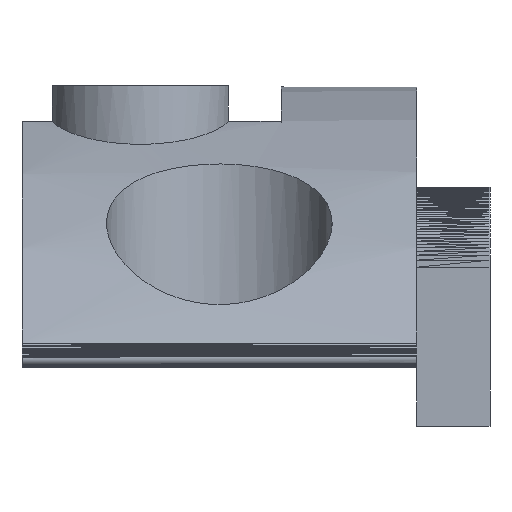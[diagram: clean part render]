
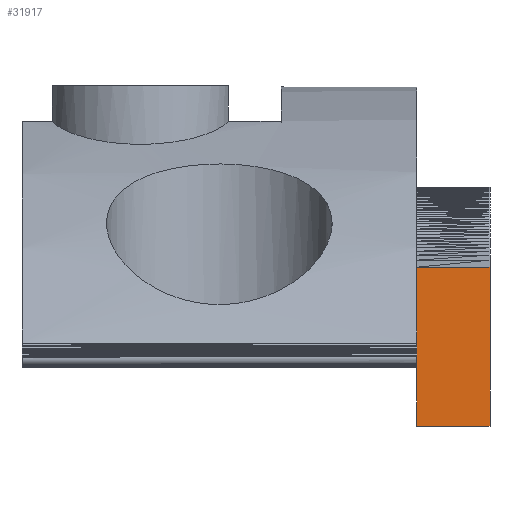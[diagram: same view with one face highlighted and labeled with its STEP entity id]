
A CAD part, left-side view. The second image highlights one B-rep face of the part: STEP entity #31917.
In plain terms, the highlighted planar face has unit normal (-1, 0, 0).
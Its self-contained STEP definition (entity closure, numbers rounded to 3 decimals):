
#3172 = PLANE('',#3173);
#3173 = AXIS2_PLACEMENT_3D('',#3174,#3175,#3176);
#3174 = CARTESIAN_POINT('',(-7.788,5.752,
    1.925));
#3175 = DIRECTION('',(0.,-1.,0.));
#3176 = DIRECTION('',(-0.,0.,1.));
#3265 = PLANE('',#3266);
#3266 = AXIS2_PLACEMENT_3D('',#3267,#3268,#3269);
#3267 = CARTESIAN_POINT('',(-7.618,4.452,2.648
    ));
#3268 = DIRECTION('',(0.,1.,0.));
#3269 = DIRECTION('',(0.,0.,-1.));
#14604 = VERTEX_POINT('',#14605);
#14605 = CARTESIAN_POINT('',(-11.363,4.452,
    -1.038));
#14612 = PLANE('',#14613);
#14613 = AXIS2_PLACEMENT_3D('',#14614,#14615,#14616);
#14614 = CARTESIAN_POINT('',(-7.618,5.102,
    -1.038));
#14615 = DIRECTION('',(0.,0.,1.));
#14616 = DIRECTION('',(0.,1.,0.));
#14631 = EDGE_CURVE('',#14604,#14632,#14634,.T.);
#14632 = VERTEX_POINT('',#14633);
#14633 = CARTESIAN_POINT('',(-11.363,5.752,
    -1.038));
#14634 = SURFACE_CURVE('',#14635,(#14639,#14646),.PCURVE_S1.);
#14635 = LINE('',#14636,#14637);
#14636 = CARTESIAN_POINT('',(-11.363,5.167,
    -1.038));
#14637 = VECTOR('',#14638,1.);
#14638 = DIRECTION('',(-0.,1.,-0.));
#14639 = PCURVE('',#14612,#14640);
#14640 = DEFINITIONAL_REPRESENTATION('',(#14641),#14645);
#14641 = LINE('',#14642,#14643);
#14642 = CARTESIAN_POINT('',(0.065,3.744));
#14643 = VECTOR('',#14644,1.);
#14644 = DIRECTION('',(1.,0.));
#14645 = ( GEOMETRIC_REPRESENTATION_CONTEXT(2) 
PARAMETRIC_REPRESENTATION_CONTEXT() REPRESENTATION_CONTEXT('2D SPACE',''
  ) );
#14646 = PCURVE('',#14647,#14652);
#14647 = PLANE('',#14648);
#14648 = AXIS2_PLACEMENT_3D('',#14649,#14650,#14651);
#14649 = CARTESIAN_POINT('',(-11.363,5.232,
    0.298));
#14650 = DIRECTION('',(-1.,-0.,-0.));
#14651 = DIRECTION('',(0.,0.,-1.));
#14652 = DEFINITIONAL_REPRESENTATION('',(#14653),#14657);
#14653 = LINE('',#14654,#14655);
#14654 = CARTESIAN_POINT('',(1.335,0.065));
#14655 = VECTOR('',#14656,1.);
#14656 = DIRECTION('',(0.,-1.));
#14657 = ( GEOMETRIC_REPRESENTATION_CONTEXT(2) 
PARAMETRIC_REPRESENTATION_CONTEXT() REPRESENTATION_CONTEXT('2D SPACE',''
  ) );
#14746 = VERTEX_POINT('',#14747);
#14747 = CARTESIAN_POINT('',(-11.363,5.752,
    0.));
#15021 = PLANE('',#15022);
#15022 = AXIS2_PLACEMENT_3D('',#15023,#15024,#15025);
#15023 = CARTESIAN_POINT('',(-7.618,5.752,
    0.));
#15024 = DIRECTION('',(0.,1.,0.));
#15025 = DIRECTION('',(0.,0.,1.));
#27094 = EDGE_CURVE('',#14746,#27095,#27097,.T.);
#27095 = VERTEX_POINT('',#27096);
#27096 = CARTESIAN_POINT('',(-11.363,5.752,
    1.782));
#27097 = SURFACE_CURVE('',#27098,(#27102,#27109),.PCURVE_S1.);
#27098 = LINE('',#27099,#27100);
#27099 = CARTESIAN_POINT('',(-11.363,5.752,
    1.111));
#27100 = VECTOR('',#27101,1.);
#27101 = DIRECTION('',(-0.,-0.,1.));
#27102 = PCURVE('',#3172,#27103);
#27103 = DEFINITIONAL_REPRESENTATION('',(#27104),#27108);
#27104 = LINE('',#27105,#27106);
#27105 = CARTESIAN_POINT('',(-0.814,3.574));
#27106 = VECTOR('',#27107,1.);
#27107 = DIRECTION('',(1.,0.));
#27108 = ( GEOMETRIC_REPRESENTATION_CONTEXT(2) 
PARAMETRIC_REPRESENTATION_CONTEXT() REPRESENTATION_CONTEXT('2D SPACE',''
  ) );
#27109 = PCURVE('',#14647,#27110);
#27110 = DEFINITIONAL_REPRESENTATION('',(#27111),#27115);
#27111 = LINE('',#27112,#27113);
#27112 = CARTESIAN_POINT('',(-0.814,-0.52));
#27113 = VECTOR('',#27114,1.);
#27114 = DIRECTION('',(-1.,0.));
#27115 = ( GEOMETRIC_REPRESENTATION_CONTEXT(2) 
PARAMETRIC_REPRESENTATION_CONTEXT() REPRESENTATION_CONTEXT('2D SPACE',''
  ) );
#28437 = EDGE_CURVE('',#27095,#28438,#28440,.T.);
#28438 = VERTEX_POINT('',#28439);
#28439 = CARTESIAN_POINT('',(-11.363,4.452,
    1.782));
#28440 = SURFACE_CURVE('',#28441,(#28446,#28459),.PCURVE_S1.);
#28441 = B_SPLINE_CURVE_WITH_KNOTS('',3,(#28442,#28443,#28444,#28445),
  .UNSPECIFIED.,.F.,.F.,(4,4),(0.,1.),.PIECEWISE_BEZIER_KNOTS.);
#28442 = CARTESIAN_POINT('',(-11.363,5.752,
    1.782));
#28443 = CARTESIAN_POINT('',(-11.363,5.319,
    1.782));
#28444 = CARTESIAN_POINT('',(-11.363,4.886,
    1.782));
#28445 = CARTESIAN_POINT('',(-11.363,4.452,
    1.782));
#28446 = PCURVE('',#28447,#28452);
#28447 = PLANE('',#28448);
#28448 = AXIS2_PLACEMENT_3D('',#28449,#28450,#28451);
#28449 = CARTESIAN_POINT('',(-11.362,4.452,
    1.844));
#28450 = DIRECTION('',(-1.,0.,
    0.008));
#28451 = DIRECTION('',(-0.008,0.,
    -1.));
#28452 = DEFINITIONAL_REPRESENTATION('',(#28453),#28458);
#28453 = B_SPLINE_CURVE_WITH_KNOTS('',3,(#28454,#28455,#28456,#28457),
  .UNSPECIFIED.,.F.,.F.,(4,4),(0.,1.),.PIECEWISE_BEZIER_KNOTS.);
#28454 = CARTESIAN_POINT('',(0.062,-1.3));
#28455 = CARTESIAN_POINT('',(0.062,-0.867));
#28456 = CARTESIAN_POINT('',(0.062,-0.433));
#28457 = CARTESIAN_POINT('',(0.062,0.));
#28458 = ( GEOMETRIC_REPRESENTATION_CONTEXT(2) 
PARAMETRIC_REPRESENTATION_CONTEXT() REPRESENTATION_CONTEXT('2D SPACE',''
  ) );
#28459 = PCURVE('',#14647,#28460);
#28460 = DEFINITIONAL_REPRESENTATION('',(#28461),#28466);
#28461 = B_SPLINE_CURVE_WITH_KNOTS('',3,(#28462,#28463,#28464,#28465),
  .UNSPECIFIED.,.F.,.F.,(4,4),(0.,1.),.PIECEWISE_BEZIER_KNOTS.);
#28462 = CARTESIAN_POINT('',(-1.484,-0.52));
#28463 = CARTESIAN_POINT('',(-1.484,-0.087));
#28464 = CARTESIAN_POINT('',(-1.484,0.347));
#28465 = CARTESIAN_POINT('',(-1.484,0.78));
#28466 = ( GEOMETRIC_REPRESENTATION_CONTEXT(2) 
PARAMETRIC_REPRESENTATION_CONTEXT() REPRESENTATION_CONTEXT('2D SPACE',''
  ) );
#31917 = ADVANCED_FACE('',(#31918),#14647,.T.);
#31918 = FACE_BOUND('',#31919,.T.);
#31919 = EDGE_LOOP('',(#31920,#31921,#31922,#31946,#31947));
#31920 = ORIENTED_EDGE('',*,*,#28437,.F.);
#31921 = ORIENTED_EDGE('',*,*,#27094,.F.);
#31922 = ORIENTED_EDGE('',*,*,#31923,.T.);
#31923 = EDGE_CURVE('',#14746,#14632,#31924,.T.);
#31924 = SURFACE_CURVE('',#31925,(#31930,#31938),.PCURVE_S1.);
#31925 = B_SPLINE_CURVE_WITH_KNOTS('',3,(#31926,#31927,#31928,#31929),
  .UNSPECIFIED.,.F.,.F.,(4,4),(0.,1.),.PIECEWISE_BEZIER_KNOTS.);
#31926 = CARTESIAN_POINT('',(-11.363,5.752,
    0.));
#31927 = CARTESIAN_POINT('',(-11.363,5.752,
    -0.346));
#31928 = CARTESIAN_POINT('',(-11.363,5.752,
    -0.692));
#31929 = CARTESIAN_POINT('',(-11.363,5.752,
    -1.038));
#31930 = PCURVE('',#14647,#31931);
#31931 = DEFINITIONAL_REPRESENTATION('',(#31932),#31937);
#31932 = B_SPLINE_CURVE_WITH_KNOTS('',3,(#31933,#31934,#31935,#31936),
  .UNSPECIFIED.,.F.,.F.,(4,4),(0.,1.),.PIECEWISE_BEZIER_KNOTS.);
#31933 = CARTESIAN_POINT('',(0.298,-0.52));
#31934 = CARTESIAN_POINT('',(0.644,-0.52));
#31935 = CARTESIAN_POINT('',(0.99,-0.52));
#31936 = CARTESIAN_POINT('',(1.335,-0.52));
#31937 = ( GEOMETRIC_REPRESENTATION_CONTEXT(2) 
PARAMETRIC_REPRESENTATION_CONTEXT() REPRESENTATION_CONTEXT('2D SPACE',''
  ) );
#31938 = PCURVE('',#15021,#31939);
#31939 = DEFINITIONAL_REPRESENTATION('',(#31940),#31945);
#31940 = B_SPLINE_CURVE_WITH_KNOTS('',3,(#31941,#31942,#31943,#31944),
  .UNSPECIFIED.,.F.,.F.,(4,4),(0.,1.),.PIECEWISE_BEZIER_KNOTS.);
#31941 = CARTESIAN_POINT('',(0.,-3.744));
#31942 = CARTESIAN_POINT('',(-0.346,-3.744));
#31943 = CARTESIAN_POINT('',(-0.692,-3.744));
#31944 = CARTESIAN_POINT('',(-1.038,-3.744));
#31945 = ( GEOMETRIC_REPRESENTATION_CONTEXT(2) 
PARAMETRIC_REPRESENTATION_CONTEXT() REPRESENTATION_CONTEXT('2D SPACE',''
  ) );
#31946 = ORIENTED_EDGE('',*,*,#14631,.F.);
#31947 = ORIENTED_EDGE('',*,*,#31948,.T.);
#31948 = EDGE_CURVE('',#14604,#28438,#31949,.T.);
#31949 = SURFACE_CURVE('',#31950,(#31954,#31961),.PCURVE_S1.);
#31950 = LINE('',#31951,#31952);
#31951 = CARTESIAN_POINT('',(-11.363,4.452,
    1.473));
#31952 = VECTOR('',#31953,1.);
#31953 = DIRECTION('',(-0.,-0.,1.));
#31954 = PCURVE('',#14647,#31955);
#31955 = DEFINITIONAL_REPRESENTATION('',(#31956),#31960);
#31956 = LINE('',#31957,#31958);
#31957 = CARTESIAN_POINT('',(-1.175,0.78));
#31958 = VECTOR('',#31959,1.);
#31959 = DIRECTION('',(-1.,0.));
#31960 = ( GEOMETRIC_REPRESENTATION_CONTEXT(2) 
PARAMETRIC_REPRESENTATION_CONTEXT() REPRESENTATION_CONTEXT('2D SPACE',''
  ) );
#31961 = PCURVE('',#3265,#31962);
#31962 = DEFINITIONAL_REPRESENTATION('',(#31963),#31967);
#31963 = LINE('',#31964,#31965);
#31964 = CARTESIAN_POINT('',(1.175,3.744));
#31965 = VECTOR('',#31966,1.);
#31966 = DIRECTION('',(-1.,0.));
#31967 = ( GEOMETRIC_REPRESENTATION_CONTEXT(2) 
PARAMETRIC_REPRESENTATION_CONTEXT() REPRESENTATION_CONTEXT('2D SPACE',''
  ) );
